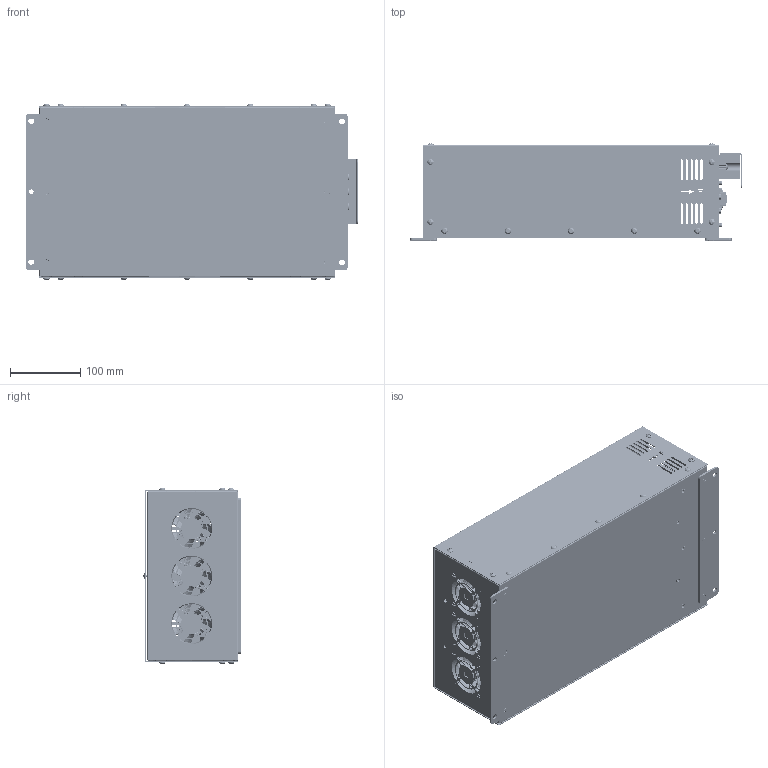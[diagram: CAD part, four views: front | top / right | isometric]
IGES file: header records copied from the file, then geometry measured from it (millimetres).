
Global section: file name: VX3COM_OLED_21pitch단자대_2026.06.16_단순화_1,22HAutodesk; native system: Inventor 2026; preprocessor: unknown; author: Administrator; date: 20260616.165014; units: millimetre
Bounding box: 471.11 x 138.18 x 250.84 mm (x, y, z)
Volume: 743707.8 mm3; surface area: 943769.8 mm2
Topology: 15 solids, 15 shells, 8838 faces, 24219 edges, 15975 vertices
Faces by surface type: bspline 8838
